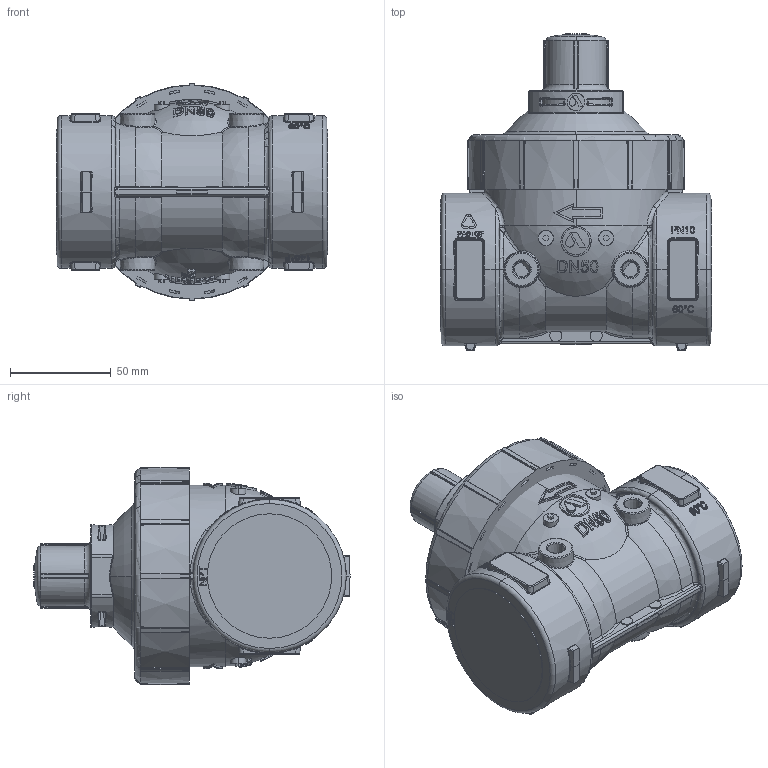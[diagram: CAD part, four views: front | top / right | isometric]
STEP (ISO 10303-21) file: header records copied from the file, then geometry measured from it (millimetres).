
FILE_DESCRIPTION (( 'STEP AP203' ), '1' );
FILE_NAME ('Assy_NR-010_2.STEP', '2014-01-07T06:23:47', ( '' ), ( '' ), 'SwSTEP 2.0', 'SolidWorks 2012', '' );
FILE_SCHEMA (( 'CONFIG_CONTROL_DESIGN' ));
Products named in the file (3): Assy_NR-010_2; Cover_NR-010_2_ECONOMY; Body_NR-010_2_Body 2" NPT
Assembly tree (2 placements, depth 2):
  Assy_NR-010_2
    Body_NR-010_2_Body 2" NPT
    Cover_NR-010_2_ECONOMY
Bounding box: 135 x 157 x 108.22 mm (x, y, z)
Volume: 1080626.9 mm3; surface area: 93593.3 mm2
Topology: 2 solids, 4 shells, 1522 faces, 3846 edges, 2446 vertices
Faces by surface type: plane 581, bspline 445, cylinder 274, torus 101, sphere 61, cone 60
Entity records: 86910 total; most frequent: CARTESIAN_POINT 53491, ORIENTED_EDGE 7688, DIRECTION 5766, EDGE_CURVE 3844, VERTEX_POINT 2446, AXIS2_PLACEMENT_3D 2146, EDGE_LOOP 1638, ADVANCED_FACE 1522
